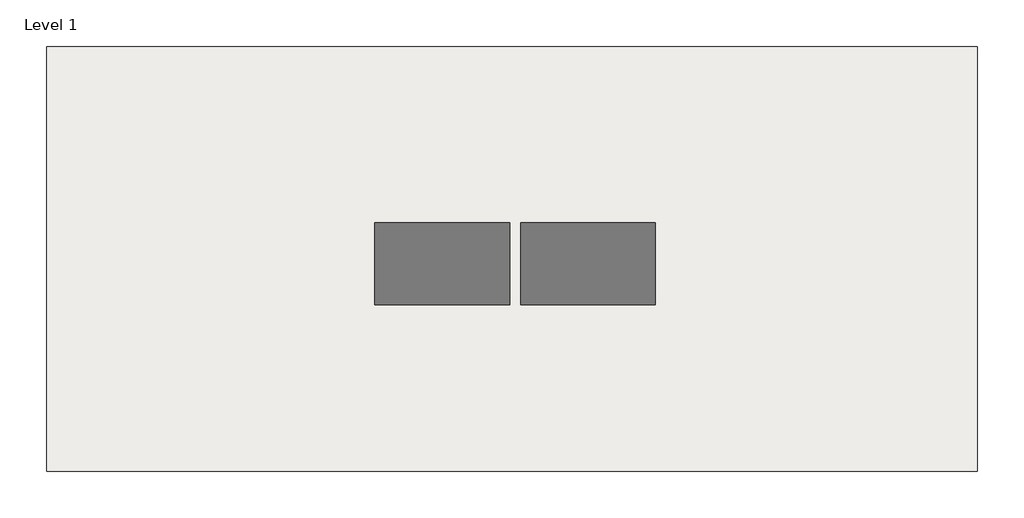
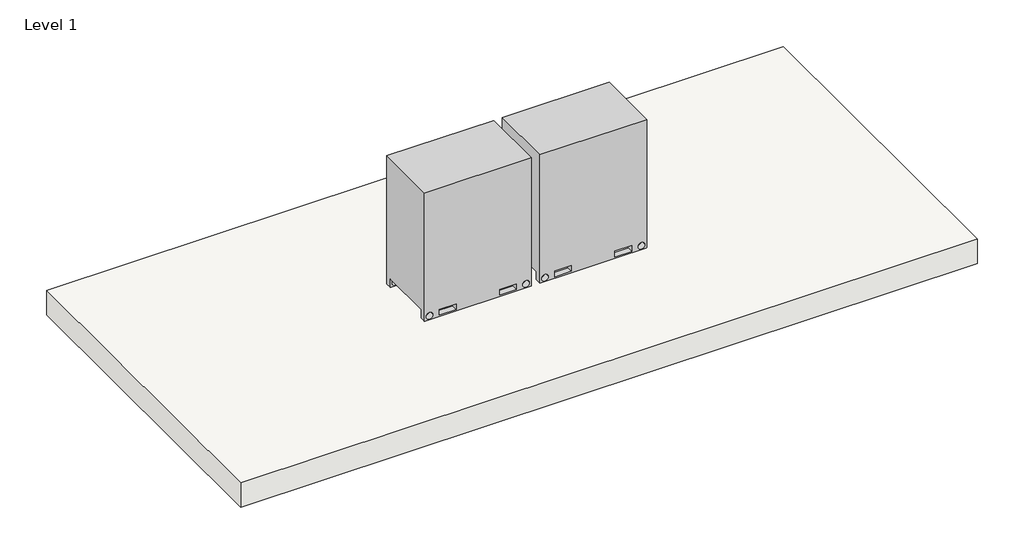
# One storey: 1 proxy, 1 slab.
"""IFC4 building model written with IfcOpenShell, lengths in millimetres."""

from ifc_helpers import new_model, si_unit, frame, origin, place, context, project, spatial, polyline, outline, extrude, transform, mapped, element, save
from components import lennox_vrf_double_unit_vra_2p_series_145000_btu_h_069cfdef

model = new_model("IFC4")

# Units and contexts
model_context = context("Model", 3, world=origin())
ifc_project = project(units=[si_unit("LENGTHUNIT", "METRE", prefix="MILLI")], contexts=[model_context])

# Site, building, storey
site = spatial("IfcSite", under=ifc_project)
building = spatial("IfcBuilding", under=site)
storey = spatial("IfcBuildingStorey", under=building, Name="Level 1", Elevation=0.0)

# Proxy
placement = place(None, origin())
lennox_vrf_double_unit_vra_2p_series_145000_btu_h_shape = lennox_vrf_double_unit_vra_2p_series_145000_btu_h_069cfdef(model_context)
element("IfcBuildingElementProxy", 1, Name="Lennox-VRF-Double_Unit-VRA-2P_Series : 145000 Btu/h", ObjectType="Lennox-VRF-Double_Unit-VRA-2P_Series : 145000 Btu/h", at=placement, inside=storey, context=model_context, shape_type="MappedRepresentation", body=[
    mapped(lennox_vrf_double_unit_vra_2p_series_145000_btu_h_shape, transform((5596.4303972, 88.076791, 0.0), x_axis=(1.0, 0.0, 0.0), y_axis=(0.0, 1.0, 0.0), z_axis=(0.0, 0.0, 1.0))),
])

# Slab
element("IfcSlab", 2, ObjectType="Generic - 12\"", at=placement, inside=storey, context=model_context, shape_type="SweptSolid", body=[
    extrude(outline(polyline([(9910.3973575, 2115.5766815), (9910.3973575, -1846.8233185), (1223.5973575, -1846.8233185), (1223.5973575, 2115.5766815), (9910.3973575, 2115.5766815)])), frame((0.0, 0.0, -304.8), z_axis=(0.0, 0.0, 1.0), x_axis=(1.0, 0.0, 0.0)), (0.0, 0.0, 1.0), 304.8),
])

save(model, "model.ifc")
